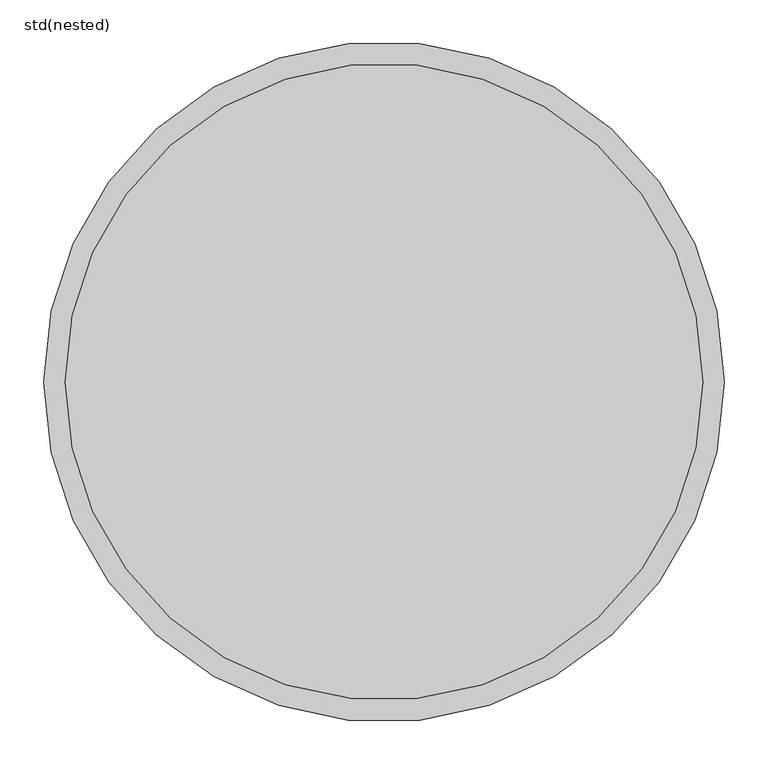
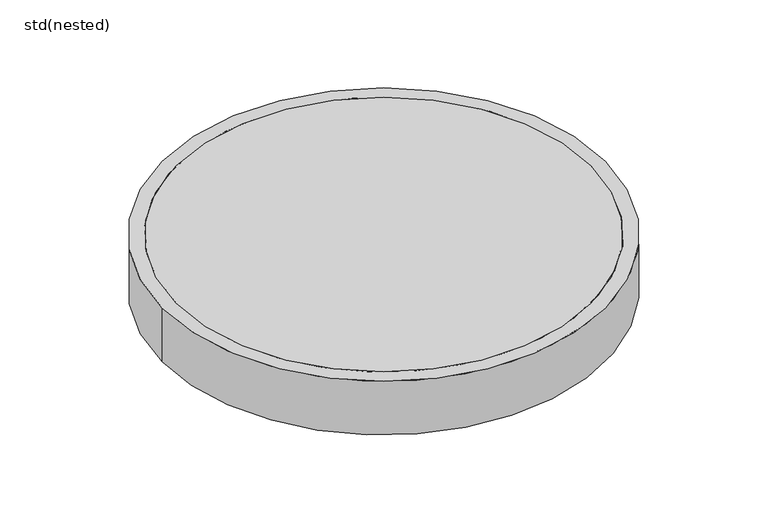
"""IFC4 building model written with IfcOpenShell, lengths in millimetres: unitary equipment geometry, ZZZ_do not use_ME_WPB_manhole covers_ACO : std(nested)."""

import ifcopenshell
import ifcopenshell.guid

model = None  # the IFC model being written
_history = None  # IfcOwnerHistory: only IFC2X3 demands one
_inside = {}  # id of a spatial element -> (the spatial element, [elements in it])
_under = {}  # id of a project, library or spatial element -> (it, [spatial elements below it])
_declared = {}  # id of a project -> (the project, [libraries it declares])
_typed = {}  # id of a type object -> (the type object, [elements of that type])
_made_of = {}  # id of a material, layer set ... -> (it, [elements and type objects made of it])


def new_model(schema):
    """Start an empty IFC model of exactly this schema.

    Asked for "IFC4X3", IfcOpenShell would pick the latest addendum, in which some entities
    have other attributes; the version numbers below select the first issue.
    IFC2X3 requires an IfcOwnerHistory on every rooted entity: one is made here for all.
    """
    global model, _history
    if schema == "IFC4X3":
        model = ifcopenshell.file(schema_version=(4, 3, 0, 0))
    else:
        model = ifcopenshell.file(schema=schema)
    _inside.clear()
    _under.clear()
    _declared.clear()
    _typed.clear()
    _made_of.clear()
    _history = None
    if model.schema == "IFC2X3":
        org = make("IfcOrganization", Name="unknown")
        user = make(
            "IfcPersonAndOrganization",
            ThePerson=make("IfcPerson", FamilyName="unknown"),
            TheOrganization=org,
        )
        app = make(
            "IfcApplication",
            ApplicationDeveloper=org,
            Version="unknown",
            ApplicationFullName="unknown",
            ApplicationIdentifier="unknown",
        )
        _history = make(
            "IfcOwnerHistory",
            OwningUser=user,
            OwningApplication=app,
            ChangeAction="ADDED",
            CreationDate=0,
        )
    return model


def make(cls, **values):
    """One entity of the class cls with the attributes given. An attribute that is None is left unset."""
    return model.create_entity(
        cls, **{name: value for name, value in values.items() if value is not None}
    )


def rooted(cls, **values):
    """An entity with a GlobalId (a new one), such as an element, a storey or a relation."""
    return make(cls, GlobalId=ifcopenshell.guid.new(), OwnerHistory=_history, **values)


def si_unit(unit_type, name, prefix=None):
    """IfcSIUnit, for example si_unit("LENGTHUNIT", "METRE", prefix="MILLI")."""
    return make("IfcSIUnit", UnitType=unit_type, Prefix=prefix, Name=name)


def assignment(units):
    """IfcUnitAssignment: the units of a project."""
    return None if units is None else make("IfcUnitAssignment", Units=units)


def point(xyz):
    """IfcCartesianPoint."""
    return None if xyz is None else make("IfcCartesianPoint", Coordinates=xyz)


def direction(xyz):
    """IfcDirection."""
    return None if xyz is None else make("IfcDirection", DirectionRatios=xyz)


def frame(location, z_axis=None, x_axis=None):
    """IfcAxis2Placement3D, a coordinate frame: its origin and axes. An axis left out is left unset."""
    return make(
        "IfcAxis2Placement3D",
        Location=point(location),
        Axis=direction(z_axis),
        RefDirection=direction(x_axis),
    )


def frame_2d(location, x_axis=None):
    """IfcAxis2Placement2D, a coordinate frame in the plane: its origin and x axis."""
    return make(
        "IfcAxis2Placement2D", Location=point(location), RefDirection=direction(x_axis)
    )


def origin():
    """The frame at (0, 0, 0) with its axes left unset."""
    return frame((0.0, 0.0, 0.0))


def origin_2d():
    """The frame at (0, 0) in the plane with its x axis left unset."""
    return frame_2d((0.0, 0.0))


def place(relative_to, where):
    """IfcLocalPlacement: puts the frame where relative to a parent placement (None: the world)."""
    return make(
        "IfcLocalPlacement", PlacementRelTo=relative_to, RelativePlacement=where
    )


def context(
    kind, dimensions, precision=None, world=None, true_north=None, identifier=None
):
    """IfcGeometricRepresentationContext, for example the 3D "Model" context."""
    return make(
        "IfcGeometricRepresentationContext",
        ContextIdentifier=identifier,
        ContextType=kind,
        CoordinateSpaceDimension=dimensions,
        Precision=precision,
        WorldCoordinateSystem=world,
        TrueNorth=true_north,
    )


def project(units=None, contexts=None):
    """IfcProject with its units and contexts."""
    return rooted(
        "IfcProject",
        Name="project",
        RepresentationContexts=contexts,
        UnitsInContext=assignment(units),
    )


def spatial(cls, under=None, at=None, **own):
    """A site, building, storey or space (cls), placed at a placement, below another one or the project."""
    s = rooted(cls, ObjectPlacement=at, **own)
    if under is not None:
        _under.setdefault(under.id(), (under, []))[1].append(s)
    return s


def circle_curve(where, radius):
    """IfcCircle in the frame where."""
    return make("IfcCircle", Position=where, Radius=radius)


def trimmed(basis, trim1, trim2, sense, master):
    """IfcTrimmedCurve: the piece of a basis curve between two trims."""
    return make(
        "IfcTrimmedCurve",
        BasisCurve=basis,
        Trim1=trim1,
        Trim2=trim2,
        SenseAgreement=sense,
        MasterRepresentation=master,
    )


def segment(curve, same_sense, transition):
    """IfcCompositeCurveSegment."""
    return make(
        "IfcCompositeCurveSegment",
        Transition=transition,
        SameSense=same_sense,
        ParentCurve=curve,
    )


def composite_curve(segments, self_intersect=None):
    """IfcCompositeCurve: segments joined end to end."""
    return make("IfcCompositeCurve", Segments=segments, SelfIntersect=self_intersect)


def outline(outer, holes=None, kind="AREA"):
    """IfcArbitraryClosedProfileDef: a profile drawn as a closed curve; with holes, ...WithVoids."""
    if holes is None:
        return make("IfcArbitraryClosedProfileDef", ProfileType=kind, OuterCurve=outer)
    return make(
        "IfcArbitraryProfileDefWithVoids",
        ProfileType=kind,
        OuterCurve=outer,
        InnerCurves=holes,
    )


def extrude(swept, where, along, depth):
    """IfcExtrudedAreaSolid: the profile swept, set in the frame where, extruded along a direction by depth."""
    return make(
        "IfcExtrudedAreaSolid",
        SweptArea=swept,
        Position=where,
        ExtrudedDirection=direction(along),
        Depth=depth,
    )


def shape(context_of_items, identifier, shape_type, items):
    """IfcShapeRepresentation: the items that make up one representation, for example the "Body"."""
    return make(
        "IfcShapeRepresentation",
        ContextOfItems=context_of_items,
        RepresentationIdentifier=identifier,
        RepresentationType=shape_type,
        Items=items,
    )


def source(mapping_origin, context_of_items, identifier, shape_type, items):
    """IfcRepresentationMap: a shape defined once, which mapped items show again and again."""
    return make(
        "IfcRepresentationMap",
        MappingOrigin=mapping_origin,
        MappedRepresentation=shape(context_of_items, identifier, shape_type, items),
    )


def transform(
    local_origin,
    x_axis=None,
    y_axis=None,
    z_axis=None,
    scale=None,
    scale2=None,
    scale3=None,
    uniform=True,
):
    """IfcCartesianTransformationOperator3D, or its non-uniform kind. x_axis, y_axis, z_axis: its Axis1, 2, 3."""
    if uniform:
        return make(
            "IfcCartesianTransformationOperator3D",
            Axis1=direction(x_axis),
            Axis2=direction(y_axis),
            LocalOrigin=point(local_origin),
            Scale=scale,
            Axis3=direction(z_axis),
        )
    return make(
        "IfcCartesianTransformationOperator3DnonUniform",
        Axis1=direction(x_axis),
        Axis2=direction(y_axis),
        LocalOrigin=point(local_origin),
        Scale=scale,
        Axis3=direction(z_axis),
        Scale2=scale2,
        Scale3=scale3,
    )


def mapped(mapping_source, mapping_target):
    """IfcMappedItem: shows the shape of a source again, moved by a transform."""
    return make(
        "IfcMappedItem", MappingSource=mapping_source, MappingTarget=mapping_target
    )


def made_of(thing, what):
    """Note that an element or type object is made of a material, layer set ...; save() writes the relation."""
    if what is not None:
        _made_of.setdefault(what.id(), (what, []))[1].append(thing)
    return thing


def element(
    cls,
    number,
    at=None,
    inside=None,
    cuts=None,
    type_object=None,
    material=None,
    context=None,
    identifier="Body",
    shape_type=None,
    held_by="IfcProductDefinitionShape",
    body=None,
    shapes=None,
    **own,
):
    """One element of the class cls, such as IfcWall. Its Tag is "e" and its number.

    at: its placement. inside: the storey or other place that contains it. cuts: it is an
    opening in that element (IfcRelVoidsElement). A single representation is given by context,
    identifier, shape_type and body (its items); several are given by shapes. held_by: the class
    of the entity that holds the representations. save() writes the other relations.
    """
    e = rooted(cls, Tag="e%d" % number, ObjectPlacement=at, **own)
    if body is not None:
        shapes = [shape(context, identifier, shape_type, body)]
    if shapes is not None:
        e.Representation = make(held_by, Representations=shapes)
    if inside is not None:
        _inside.setdefault(inside.id(), (inside, []))[1].append(e)
    if cuts is not None:
        rooted(
            "IfcRelVoidsElement", RelatingBuildingElement=cuts, RelatedOpeningElement=e
        )
    if type_object is not None:
        _typed.setdefault(type_object.id(), (type_object, []))[1].append(e)
    return made_of(e, material)


def aggregate(whole, parts):
    """IfcRelAggregates: a whole, such as a stair, and the parts it consists of."""
    return rooted("IfcRelAggregates", RelatingObject=whole, RelatedObjects=parts)


def save(model, path):
    """Write the relations noted so far, then the file.

    IfcRelAggregates (storeys below a building ...), IfcRelContainedInSpatialStructure (elements
    in a storey), IfcRelDefinesByType, IfcRelAssociatesMaterial and IfcRelDeclares: one each for
    every whole, place, type object, material and project.
    """
    for whole, parts in _under.values():
        aggregate(whole, parts)
    for where, things in _inside.values():
        rooted(
            "IfcRelContainedInSpatialStructure",
            RelatedElements=things,
            RelatingStructure=where,
        )
    for kind, things in _typed.values():
        rooted("IfcRelDefinesByType", RelatedObjects=things, RelatingType=kind)
    for what, things in _made_of.values():
        rooted("IfcRelAssociatesMaterial", RelatedObjects=things, RelatingMaterial=what)
    for by, libraries in _declared.values():
        rooted("IfcRelDeclares", RelatingContext=by, RelatedDefinitions=libraries)
    model.write(path)


def std_nested_6977cd49(model_context):
    return source(origin(), model_context, "Body", "SweptSolid", [
        extrude(outline(composite_curve([segment(trimmed(circle_curve(origin_2d(), 365.0), [point((365.0, 0.0))], [point((-365.0, 0.0))], False, "CARTESIAN"), True, "CONTINUOUS"), segment(trimmed(circle_curve(origin_2d(), 365.0), [point((-365.0, 0.0))], [point((365.0, 0.0))], False, "CARTESIAN"), True, "CONTINUOUS")], self_intersect=False)), frame((0.0, 0.0, -100.0), z_axis=(0.0, 0.0, 1.0), x_axis=(1.0, 0.0, 0.0)), (0.0, 0.0, 1.0), 100.0),
        extrude(outline(composite_curve([segment(trimmed(circle_curve(origin_2d(), 390.0), [point((-390.0, 0.0))], [point((390.0, 0.0))], False, "CARTESIAN"), True, "CONTINUOUS"), segment(trimmed(circle_curve(origin_2d(), 390.0), [point((390.0, 0.0))], [point((-390.0, 0.0))], False, "CARTESIAN"), True, "CONTINUOUS")], self_intersect=False), holes=[composite_curve([segment(trimmed(circle_curve(origin_2d(), 365.0), [point((-365.0, 0.0))], [point((365.0, 0.0))], True, "CARTESIAN"), True, "CONTINUOUS"), segment(trimmed(circle_curve(origin_2d(), 365.0), [point((365.0, 0.0))], [point((-365.0, 0.0))], True, "CARTESIAN"), True, "CONTINUOUS")], self_intersect=False)]), frame((0.0, 0.0, -100.0), z_axis=(0.0, 0.0, 1.0), x_axis=(1.0, 0.0, 0.0)), (0.0, 0.0, 1.0), 100.0),
    ])


if __name__ == "__main__":
    model = new_model("IFC4")
    model_context = context("Model", 3, world=origin())
    ifc_project = project(units=[si_unit("LENGTHUNIT", "METRE", prefix="MILLI")], contexts=[model_context])
    site = spatial("IfcSite", under=ifc_project)
    building = spatial("IfcBuilding", under=site)
    placement = place(None, origin())
    std_nested_shape = std_nested_6977cd49(model_context)
    element("IfcUnitaryEquipment", 1, ObjectType="ZZZ_do not use_ME_WPB_manhole covers_ACO : std(nested)", at=placement, inside=building, context=model_context, shape_type="MappedRepresentation", body=[
        mapped(std_nested_shape, transform((0.0, 0.0, 0.0), x_axis=(1.0, 0.0, 0.0), y_axis=(0.0, 1.0, 0.0), z_axis=(0.0, 0.0, 1.0))),
    ])
    save(model, "model.ifc")
